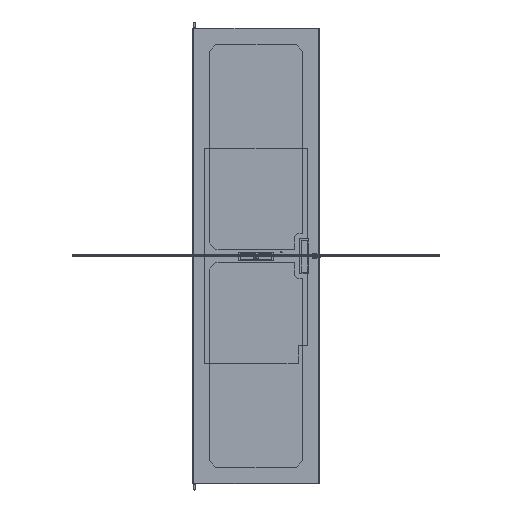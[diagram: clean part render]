
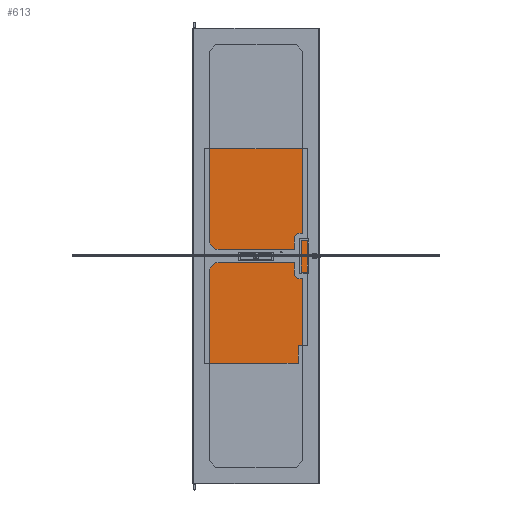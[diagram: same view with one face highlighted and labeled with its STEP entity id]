
A CAD part, front view. The second image highlights one B-rep face of the part: STEP entity #613.
In plain terms, the highlighted planar face has unit normal (0, -1, 0).
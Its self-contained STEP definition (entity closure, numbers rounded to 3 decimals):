
#613 = ADVANCED_FACE( '', ( #903 ), #904, .T. );
#903 = FACE_OUTER_BOUND( '', #1455, .T. );
#904 = PLANE( '', #1456 );
#1455 = EDGE_LOOP( '', ( #2327, #2328, #2329, #2330, #2331, #2332 ) );
#1456 = AXIS2_PLACEMENT_3D( '', #2333, #2334, #2335 );
#2327 = ORIENTED_EDGE( '', *, *, #4217, .T. );
#2328 = ORIENTED_EDGE( '', *, *, #4221, .T. );
#2329 = ORIENTED_EDGE( '', *, *, #4224, .T. );
#2330 = ORIENTED_EDGE( '', *, *, #4225, .T. );
#2331 = ORIENTED_EDGE( '', *, *, #4226, .T. );
#2332 = ORIENTED_EDGE( '', *, *, #4227, .T. );
#2333 = CARTESIAN_POINT( '', ( -200.025, 0., -417.576 ) );
#2334 = DIRECTION( '', ( 0., -1., 0. ) );
#2335 = DIRECTION( '', ( 0., 0., -1. ) );
#4217 = EDGE_CURVE( '', #4889, #4890, #4891, .T. );
#4221 = EDGE_CURVE( '', #4890, #4897, #4898, .T. );
#4224 = EDGE_CURVE( '', #4897, #4902, #4903, .T. );
#4225 = EDGE_CURVE( '', #4902, #4904, #4905, .T. );
#4226 = EDGE_CURVE( '', #4904, #4906, #4907, .T. );
#4227 = EDGE_CURVE( '', #4906, #4889, #4908, .T. );
#4889 = VERTEX_POINT( '', #5982 );
#4890 = VERTEX_POINT( '', #5983 );
#4891 = LINE( '', #5984, #5985 );
#4897 = VERTEX_POINT( '', #5994 );
#4898 = LINE( '', #5995, #5996 );
#4902 = VERTEX_POINT( '', #6002 );
#4903 = LINE( '', #6003, #6004 );
#4904 = VERTEX_POINT( '', #6005 );
#4905 = LINE( '', #6006, #6007 );
#4906 = VERTEX_POINT( '', #6008 );
#4907 = LINE( '', #6009, #6010 );
#4908 = LINE( '', #6011, #6012 );
#5982 = CARTESIAN_POINT( '', ( -200.025, 0., 417.576 ) );
#5983 = CARTESIAN_POINT( '', ( -200.025, 0., -417.576 ) );
#5984 = CARTESIAN_POINT( '', ( -200.025, 0., 417.576 ) );
#5985 = VECTOR( '', #7635, 1000. );
#5994 = CARTESIAN_POINT( '', ( 163.513, 0., -417.576 ) );
#5995 = CARTESIAN_POINT( '', ( -200.025, 0., -417.576 ) );
#5996 = VECTOR( '', #7639, 1000. );
#6002 = CARTESIAN_POINT( '', ( 163.513, 0., -347.726 ) );
#6003 = CARTESIAN_POINT( '', ( 163.513, 0., -417.576 ) );
#6004 = VECTOR( '', #7642, 1000. );
#6005 = CARTESIAN_POINT( '', ( 200.025, 0., -347.726 ) );
#6006 = CARTESIAN_POINT( '', ( 163.513, 0., -347.726 ) );
#6007 = VECTOR( '', #7643, 1000. );
#6008 = CARTESIAN_POINT( '', ( 200.025, 0., 417.576 ) );
#6009 = CARTESIAN_POINT( '', ( 200.025, 0., -347.726 ) );
#6010 = VECTOR( '', #7644, 1000. );
#6011 = CARTESIAN_POINT( '', ( 200.025, 0., 417.576 ) );
#6012 = VECTOR( '', #7645, 1000. );
#7635 = DIRECTION( '', ( 0., 0., -1. ) );
#7639 = DIRECTION( '', ( 1., 0., 0. ) );
#7642 = DIRECTION( '', ( 0., 0., 1. ) );
#7643 = DIRECTION( '', ( 1., 0., 0. ) );
#7644 = DIRECTION( '', ( 0., 0., 1. ) );
#7645 = DIRECTION( '', ( -1., 0., 0. ) );
